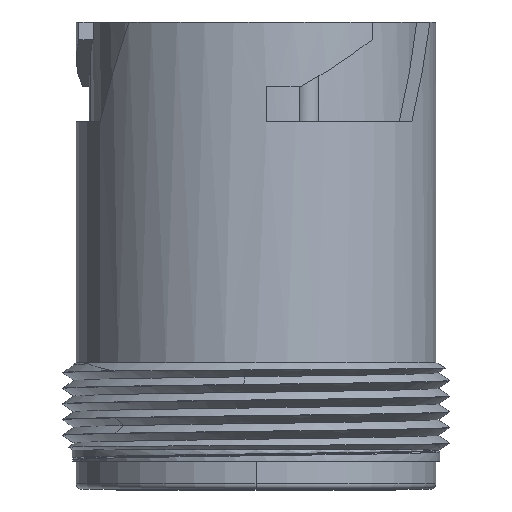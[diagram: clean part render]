
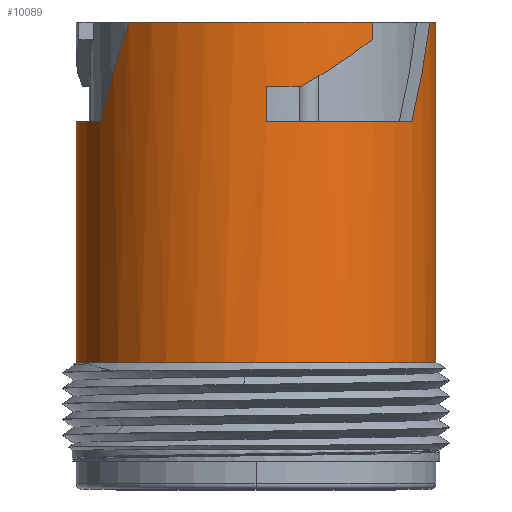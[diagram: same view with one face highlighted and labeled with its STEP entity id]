
A CAD part, front view. The second image highlights one B-rep face of the part: STEP entity #10089.
In plain terms, the highlighted cylindrical face has radius 16.244 mm (diameter 32.487 mm), a partial arc.
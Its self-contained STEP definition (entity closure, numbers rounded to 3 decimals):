
#73=CARTESIAN_POINT('',(0.,0.,-18.923));
#74=DIRECTION('',(0.,0.,1.));
#75=DIRECTION('',(1.,0.,0.));
#76=AXIS2_PLACEMENT_3D('',#73,#74,#75);
#176=CARTESIAN_POINT('',(0.,0.,-18.923));
#177=DIRECTION('',(0.,0.,1.));
#178=DIRECTION('',(-0.039,0.999,0.));
#179=AXIS2_PLACEMENT_3D('',#176,#177,#178);
#206=DIRECTION('',(0.,0.,-1.));
#207=VECTOR('',#206,9.906);
#208=CARTESIAN_POINT('',(-16.244,0.,-9.017));
#209=LINE('',#208,#207);
#213=CARTESIAN_POINT('',(-14.067,-8.122,-9.017));
#214=CARTESIAN_POINT('',(-13.364,-9.339,
-6.002));
#215=CARTESIAN_POINT('',(-12.508,-10.464,
-2.996));
#216=CARTESIAN_POINT('',(-11.485,-11.486,0.));
#221=CARTESIAN_POINT('',(0.,0.,0.));
#222=DIRECTION('',(0.,0.,-1.));
#223=DIRECTION('',(0.645,-0.764,0.));
#224=AXIS2_PLACEMENT_3D('',#221,#222,#223);
#229=DIRECTION('',(0.,0.,1.));
#230=VECTOR('',#229,1.591);
#231=CARTESIAN_POINT('',(10.484,-12.407,-1.591));
#232=LINE('',#231,#230);
#236=CARTESIAN_POINT('',(4.114,-15.714,-5.791));
#237=CARTESIAN_POINT('',(5.316,-15.399,-5.119));
#238=CARTESIAN_POINT('',(7.571,-14.519,-3.744));
#239=CARTESIAN_POINT('',(9.559,-13.189,-2.318));
#240=CARTESIAN_POINT('',(10.484,-12.407,-1.591));
#245=CARTESIAN_POINT('',(0.,0.,-5.791));
#246=DIRECTION('',(0.,0.,1.));
#247=DIRECTION('',(0.058,-0.998,0.));
#248=AXIS2_PLACEMENT_3D('',#245,#246,#247);
#253=DIRECTION('',(0.,0.,1.));
#254=VECTOR('',#253,3.226);
#255=CARTESIAN_POINT('',(0.941,-16.216,-9.017));
#256=LINE('',#255,#254);
#260=CARTESIAN_POINT('',(14.067,-8.122,-9.017));
#261=CARTESIAN_POINT('',(14.77,-6.904,-6.002));
#262=CARTESIAN_POINT('',(15.316,-5.601,-2.996));
#263=CARTESIAN_POINT('',(15.69,-4.204,0.));
#268=CARTESIAN_POINT('',(0.,0.,0.));
#269=DIRECTION('',(0.,0.,-1.));
#270=DIRECTION('',(1.,0.,0.));
#271=AXIS2_PLACEMENT_3D('',#268,#269,#270);
#276=DIRECTION('',(0.,0.,-1.));
#277=VECTOR('',#276,18.923);
#278=CARTESIAN_POINT('',(16.244,0.,0.));
#279=LINE('',#278,#277);
#283=DIRECTION('',(0.,0.,1.));
#284=VECTOR('',#283,11.811);
#285=CARTESIAN_POINT('',(-0.635,16.231,-30.734));
#286=LINE('',#285,#284);
#297=CARTESIAN_POINT('',(0.,0.,-9.017));
#298=DIRECTION('',(0.,0.,-1.));
#299=DIRECTION('',(-0.866,-0.5,0.));
#300=AXIS2_PLACEMENT_3D('',#297,#298,#299);
#385=CARTESIAN_POINT('',(0.,0.,-9.017));
#386=DIRECTION('',(0.,0.,-1.));
#387=DIRECTION('',(0.866,-0.5,0.));
#388=AXIS2_PLACEMENT_3D('',#385,#386,#387);
#5897=DIRECTION('',(0.,0.,1.));
#5898=VECTOR('',#5897,11.811);
#5899=CARTESIAN_POINT('',(0.635,16.231,-30.734));
#5900=LINE('',#5899,#5898);
#5930=CARTESIAN_POINT('',(-0.635,16.231,-30.734));
#5935=CARTESIAN_POINT('',(0.,0.,-30.734));
#5936=DIRECTION('',(0.,0.,1.));
#5937=DIRECTION('',(-0.039,0.999,0.));
#5938=AXIS2_PLACEMENT_3D('',#5935,#5936,#5937);
#5971=CARTESIAN_POINT('',(0.,0.,-30.734));
#5972=DIRECTION('',(0.,0.,1.));
#5973=DIRECTION('',(1.,0.,0.));
#5974=AXIS2_PLACEMENT_3D('',#5971,#5972,#5973);
#5979=CARTESIAN_POINT('',(0.635,16.231,-30.734));
#6027=CARTESIAN_POINT('',(0.,0.,-30.734));
#6028=DIRECTION('',(0.,0.,-1.));
#6029=DIRECTION('',(1.,0.,0.));
#6030=AXIS2_PLACEMENT_3D('',#6027,#6028,#6029);
#8651=CARTESIAN_POINT('',(16.244,0.,-30.734));
#8652=CARTESIAN_POINT('',(-16.244,0.,-30.734));
#8653=VERTEX_POINT('',#8651);
#8654=VERTEX_POINT('',#8652);
#8712=VERTEX_POINT('',#5979);
#8713=VERTEX_POINT('',#5930);
#8718=CARTESIAN_POINT('',(16.244,0.,0.));
#8719=VERTEX_POINT('',#8718);
#9949=CARTESIAN_POINT('',(-14.067,-8.122,-9.017));
#9950=CARTESIAN_POINT('',(-16.244,0.,-9.017));
#9951=VERTEX_POINT('',#9949);
#9952=VERTEX_POINT('',#9950);
#9956=CARTESIAN_POINT('',(-11.485,-11.486,0.));
#9957=VERTEX_POINT('',#9956);
#9962=CARTESIAN_POINT('',(0.941,-16.216,-9.017));
#9963=VERTEX_POINT('',#9962);
#9964=CARTESIAN_POINT('',(0.941,-16.216,-5.791));
#9965=VERTEX_POINT('',#9964);
#9967=CARTESIAN_POINT('',(10.484,-12.407,0.));
#9969=VERTEX_POINT('',#9967);
#9970=CARTESIAN_POINT('',(4.114,-15.714,-5.791));
#9972=VERTEX_POINT('',#9970);
#9974=VERTEX_POINT('',#240);
#9985=CARTESIAN_POINT('',(15.69,-4.204,0.));
#9986=VERTEX_POINT('',#9985);
#9987=CARTESIAN_POINT('',(14.067,-8.122,-9.017));
#9988=VERTEX_POINT('',#9987);
#9992=CARTESIAN_POINT('',(16.244,0.,-18.923));
#9993=CARTESIAN_POINT('',(0.635,16.231,-18.923));
#9994=VERTEX_POINT('',#9992);
#9995=VERTEX_POINT('',#9993);
#9996=CARTESIAN_POINT('',(-0.635,16.231,-18.923));
#9997=CARTESIAN_POINT('',(-16.244,0.,-18.923));
#9998=VERTEX_POINT('',#9996);
#9999=VERTEX_POINT('',#9997);
#10048=CARTESIAN_POINT('',(0.,0.,-41.605));
#10049=DIRECTION('',(0.,0.,1.));
#10050=DIRECTION('',(-1.,0.,0.));
#10051=AXIS2_PLACEMENT_3D('',#10048,#10049,#10050);
#10052=CYLINDRICAL_SURFACE('',#10051,16.244);
#10053=ORIENTED_EDGE('',*,*,#10037,.T.);
#10054=ORIENTED_EDGE('',*,*,#10035,.F.);
#10056=ORIENTED_EDGE('',*,*,#10055,.F.);
#10058=ORIENTED_EDGE('',*,*,#10057,.T.);
#10060=ORIENTED_EDGE('',*,*,#10059,.F.);
#10062=ORIENTED_EDGE('',*,*,#10061,.F.);
#10064=ORIENTED_EDGE('',*,*,#10063,.F.);
#10066=ORIENTED_EDGE('',*,*,#10065,.F.);
#10068=ORIENTED_EDGE('',*,*,#10067,.F.);
#10070=ORIENTED_EDGE('',*,*,#10069,.F.);
#10072=ORIENTED_EDGE('',*,*,#10071,.T.);
#10074=ORIENTED_EDGE('',*,*,#10073,.F.);
#10075=ORIENTED_EDGE('',*,*,#10007,.T.);
#10076=ORIENTED_EDGE('',*,*,#10005,.T.);
#10078=ORIENTED_EDGE('',*,*,#10077,.F.);
#10080=ORIENTED_EDGE('',*,*,#10079,.F.);
#10082=ORIENTED_EDGE('',*,*,#10081,.T.);
#10084=ORIENTED_EDGE('',*,*,#10083,.F.);
#10086=ORIENTED_EDGE('',*,*,#10085,.T.);
#10087=EDGE_LOOP('',(#10053,#10054,#10056,#10058,#10060,#10062,#10064,#10066,
#10068,#10070,#10072,#10074,#10075,#10076,#10078,#10080,#10082,#10084,#10086));
#10088=FACE_OUTER_BOUND('',#10087,.F.);
#10089=ADVANCED_FACE('',(#10088),#10052,.T.);
#77=CIRCLE('',#76,16.244);
#180=CIRCLE('',#179,16.244);
#217=B_SPLINE_CURVE_WITH_KNOTS('',3,(#213,#214,#215,#216),.UNSPECIFIED.,.F.,.F.,
(4,4),(0.,1.),.UNSPECIFIED.);
#225=CIRCLE('',#224,16.244);
#241=B_SPLINE_CURVE_WITH_KNOTS('',3,(#236,#237,#238,#239,#240),.UNSPECIFIED.,
.F.,.F.,(4,1,4),(0.,0.5,1.),.UNSPECIFIED.);
#249=CIRCLE('',#248,16.244);
#264=B_SPLINE_CURVE_WITH_KNOTS('',3,(#260,#261,#262,#263),.UNSPECIFIED.,.F.,.F.,
(4,4),(0.,1.),.UNSPECIFIED.);
#272=CIRCLE('',#271,16.244);
#301=CIRCLE('',#300,16.244);
#389=CIRCLE('',#388,16.244);
#5939=CIRCLE('',#5938,16.244);
#5975=CIRCLE('',#5974,16.244);
#6031=CIRCLE('',#6030,16.244);
#10005=EDGE_CURVE('',#9994,#9995,#77,.T.);
#10007=EDGE_CURVE('',#8719,#9994,#279,.T.);
#10035=EDGE_CURVE('',#9952,#9999,#209,.T.);
#10037=EDGE_CURVE('',#9998,#9999,#180,.T.);
#10055=EDGE_CURVE('',#9951,#9952,#301,.T.);
#10057=EDGE_CURVE('',#9951,#9957,#217,.T.);
#10059=EDGE_CURVE('',#9969,#9957,#225,.T.);
#10061=EDGE_CURVE('',#9974,#9969,#232,.T.);
#10063=EDGE_CURVE('',#9972,#9974,#241,.T.);
#10065=EDGE_CURVE('',#9965,#9972,#249,.T.);
#10067=EDGE_CURVE('',#9963,#9965,#256,.T.);
#10069=EDGE_CURVE('',#9988,#9963,#389,.T.);
#10071=EDGE_CURVE('',#9988,#9986,#264,.T.);
#10073=EDGE_CURVE('',#8719,#9986,#272,.T.);
#10077=EDGE_CURVE('',#8712,#9995,#5900,.T.);
#10079=EDGE_CURVE('',#8653,#8712,#5975,.T.);
#10081=EDGE_CURVE('',#8653,#8654,#6031,.T.);
#10083=EDGE_CURVE('',#8713,#8654,#5939,.T.);
#10085=EDGE_CURVE('',#8713,#9998,#286,.T.);
